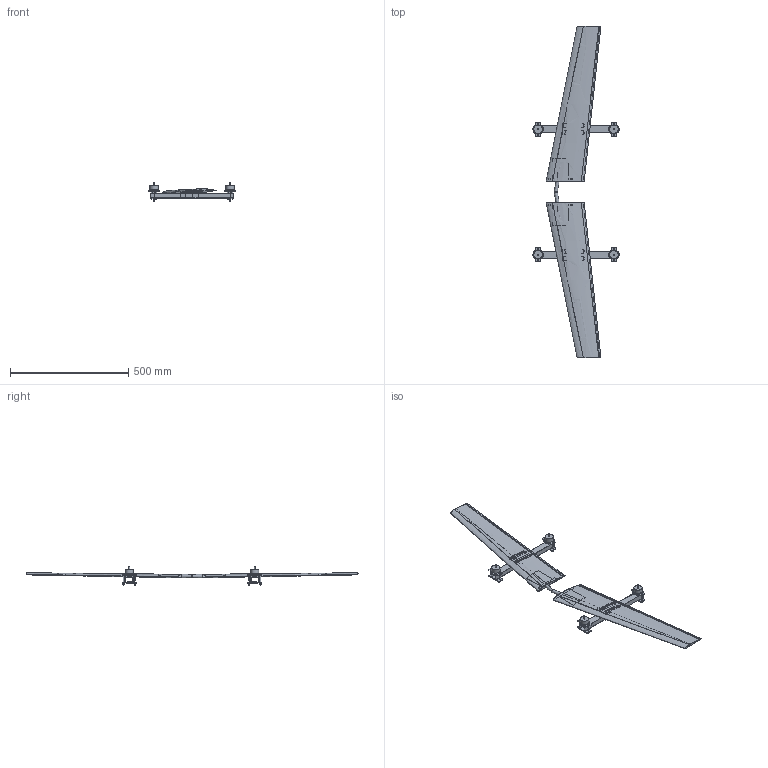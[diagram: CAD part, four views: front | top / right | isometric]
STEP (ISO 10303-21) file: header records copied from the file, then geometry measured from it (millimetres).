
FILE_DESCRIPTION(('FreeCAD Model'),'2;1');
FILE_NAME('Open CASCADE Shape Model','2026-10-25T12:50:33',('FreeCAD'),( 'FreeCAD'),'Open CASCADE STEP processor 7.8','FreeCAD','Unknown');
FILE_SCHEMA(('AUTOMOTIVE_DESIGN { 1 0 10303 214 1 1 1 1 }'));
Products named in the file (1): Open CASCADE STEP translator 7.8 2
Bounding box: 363.92 x 1401.36 x 78 mm (x, y, z)
Volume: 1463512.6 mm3; surface area: 1434683.1 mm2
Topology: 260 solids, 260 shells, 2930 faces, 6999 edges, 4612 vertices
Faces by surface type: plane 1576, bspline 694, cone 358, cylinder 224, extrusion 76, revolution 2
Full cylindrical faces by diameter (mm): 3 x48, 3.2 x32, 3.4 x32, 5 x4, 5.5 x24, 7 x32, 10 x4, 25.5 x4, 35.4 x4
Entity records: 497596 total; most frequent: CARTESIAN_POINT 438208, ORIENTED_EDGE 13998, DIRECTION 9271, EDGE_CURVE 6999, VERTEX_POINT 4612, AXIS2_PLACEMENT_3D 3492, B_SPLINE_CURVE_WITH_KNOTS 3163, FACE_BOUND 3161
